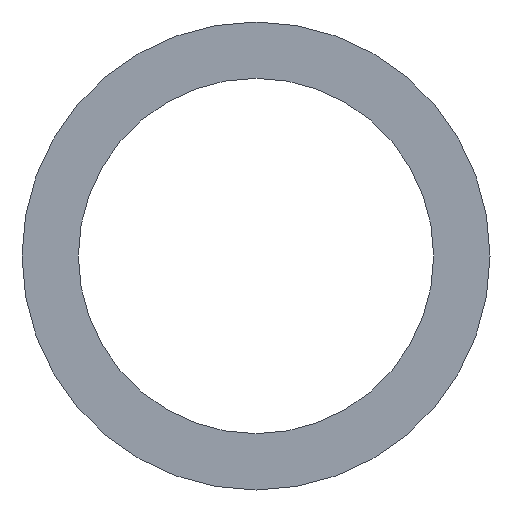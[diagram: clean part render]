
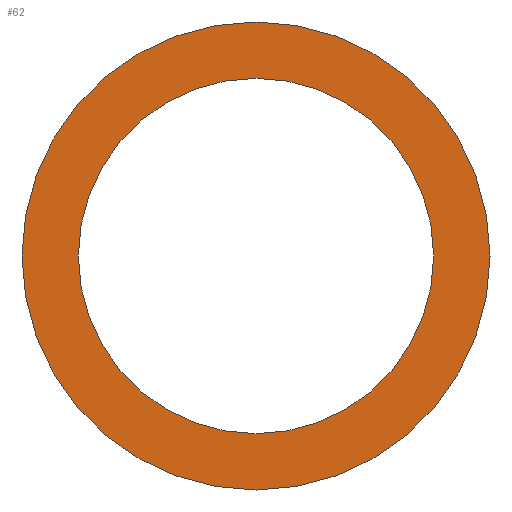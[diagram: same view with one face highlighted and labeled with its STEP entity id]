
A CAD part, front view. The second image highlights one B-rep face of the part: STEP entity #62.
In plain terms, the highlighted planar face has unit normal (0, -1, 0).
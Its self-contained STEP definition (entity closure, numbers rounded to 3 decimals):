
#20=PLANE('',#83);
#26=ORIENTED_EDGE('',*,*,#30,.T.);
#27=ORIENTED_EDGE('',*,*,#32,.F.);
#30=EDGE_CURVE('',#34,#34,#38,.T.);
#32=EDGE_CURVE('',#36,#36,#40,.T.);
#34=VERTEX_POINT('',#106);
#36=VERTEX_POINT('',#111);
#38=CIRCLE('',#78,124.5);
#40=CIRCLE('',#81,164.);
#46=EDGE_LOOP('',(#26));
#47=EDGE_LOOP('',(#27));
#54=FACE_BOUND('',#46,.T.);
#55=FACE_BOUND('',#47,.T.);
#62=ADVANCED_FACE('',(#54,#55),#20,.F.);
#78=AXIS2_PLACEMENT_3D('',#105,#89,#90);
#81=AXIS2_PLACEMENT_3D('',#110,#95,#96);
#83=AXIS2_PLACEMENT_3D('',#114,#99,#100);
#89=DIRECTION('',(0.,1.,0.));
#90=DIRECTION('',(1.,0.,0.));
#95=DIRECTION('',(0.,1.,0.));
#96=DIRECTION('',(1.,0.,0.));
#99=DIRECTION('',(0.,1.,0.));
#100=DIRECTION('',(0.,0.,1.));
#105=CARTESIAN_POINT('',(0.,-1.5,0.));
#106=CARTESIAN_POINT('',(124.5,-1.5,0.));
#110=CARTESIAN_POINT('',(0.,-1.5,0.));
#111=CARTESIAN_POINT('',(164.,-1.5,0.));
#114=CARTESIAN_POINT('',(0.,-1.5,0.));
